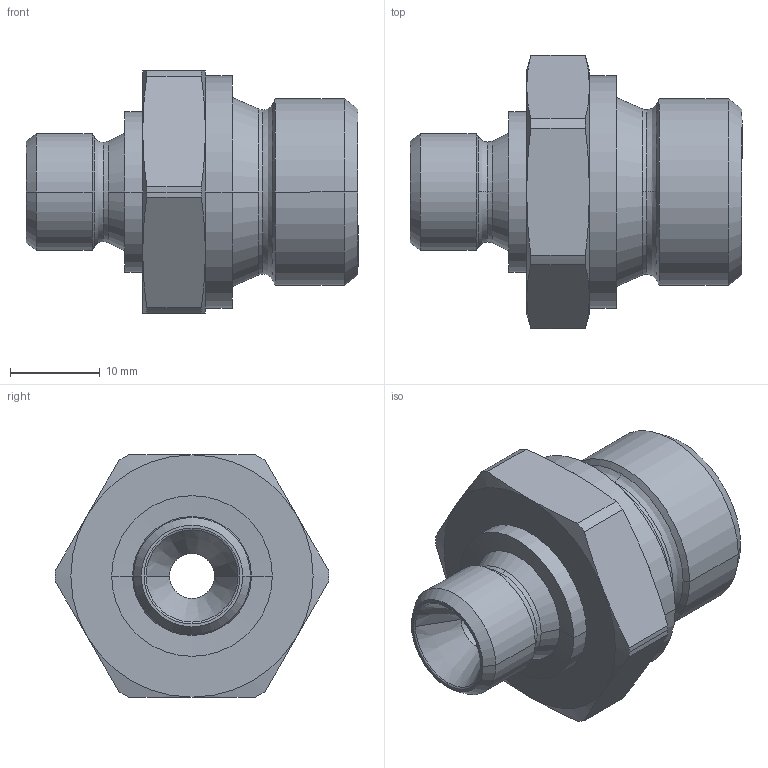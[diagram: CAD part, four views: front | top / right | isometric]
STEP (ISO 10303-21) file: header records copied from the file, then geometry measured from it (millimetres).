
FILE_DESCRIPTION((''),'2;1');
FILE_NAME('300506.stp','2006-09-11T08:09:06',(''),(''),'AutoCAD STEP 2000i','AutoCAD 2000i',', , ');
FILE_SCHEMA(('CONFIG_CONTROL_DESIGN'));
Length unit declared in the file: millimetre
Products named in the file (2): 300506.0; CHIAVE SMUSSATA#0
Assembly tree (1 placements, depth 2):
  300506.0
    CHIAVE SMUSSATA#0
Bounding box: 37 x 30.5 x 27 mm (x, y, z)
Volume: 9499 mm3; surface area: 4414 mm2
Topology: 1 solids, 1 shells, 76 faces, 178 edges, 106 vertices
Faces by surface type: cone 34, cylinder 20, plane 10, bspline 8, torus 4
Entity records: 2593 total; most frequent: CARTESIAN_POINT 762, DIRECTION 400, ORIENTED_EDGE 356, EDGE_CURVE 178, AXIS2_PLACEMENT_3D 176, VERTEX_POINT 106, CIRCLE 106, EDGE_LOOP 80
